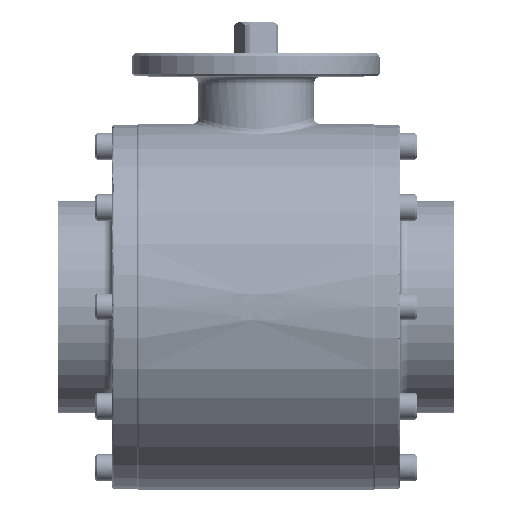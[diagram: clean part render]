
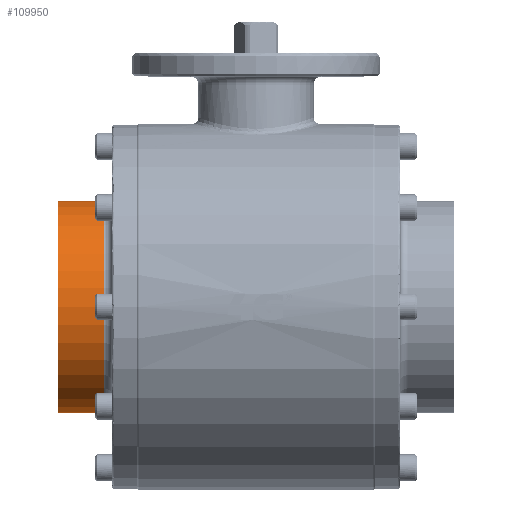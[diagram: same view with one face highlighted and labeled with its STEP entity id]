
A CAD part, top view. The second image highlights one B-rep face of the part: STEP entity #109950.
In plain terms, the highlighted cylindrical face has radius 64.5 mm (diameter 129 mm), a partial arc.
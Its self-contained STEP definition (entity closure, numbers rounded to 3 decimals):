
#40488=CARTESIAN_POINT('',(-92.5,0.,0.));
#40489=DIRECTION('',(-1.,0.,0.));
#40490=DIRECTION('',(0.,-1.,0.));
#40491=AXIS2_PLACEMENT_3D('',#40488,#40489,#40490);
#40496=CARTESIAN_POINT('',(-120.,0.,0.));
#40497=DIRECTION('',(-1.,0.,0.));
#40498=DIRECTION('',(0.,-1.,0.));
#40499=AXIS2_PLACEMENT_3D('',#40496,#40497,#40498);
#40512=DIRECTION('',(1.,0.,0.));
#40513=VECTOR('',#40512,27.5);
#40514=CARTESIAN_POINT('',(-120.,64.5,0.));
#40515=LINE('',#40514,#40513);
#40527=DIRECTION('',(1.,0.,0.));
#40528=VECTOR('',#40527,27.5);
#40529=CARTESIAN_POINT('',(-120.,-64.5,0.));
#40530=LINE('',#40529,#40528);
#78608=CARTESIAN_POINT('',(-120.,-64.5,0.));
#78609=CARTESIAN_POINT('',(-120.,64.5,0.));
#78610=VERTEX_POINT('',#78608);
#78611=VERTEX_POINT('',#78609);
#78644=CARTESIAN_POINT('',(-92.5,64.5,0.));
#78645=CARTESIAN_POINT('',(-92.5,-64.5,0.));
#78646=VERTEX_POINT('',#78644);
#78647=VERTEX_POINT('',#78645);
#109936=CARTESIAN_POINT('',(-59.625,0.,0.));
#109937=DIRECTION('',(-1.,0.,0.));
#109938=DIRECTION('',(0.,1.,0.));
#109939=AXIS2_PLACEMENT_3D('',#109936,#109937,#109938);
#109940=CYLINDRICAL_SURFACE('',#109939,64.5);
#109941=ORIENTED_EDGE('',*,*,#109930,.F.);
#109943=ORIENTED_EDGE('',*,*,#109942,.F.);
#109945=ORIENTED_EDGE('',*,*,#109944,.T.);
#109947=ORIENTED_EDGE('',*,*,#109946,.T.);
#109948=EDGE_LOOP('',(#109941,#109943,#109945,#109947));
#109949=FACE_OUTER_BOUND('',#109948,.F.);
#109950=ADVANCED_FACE('',(#109949),#109940,.T.);
#40492=CIRCLE('',#40491,64.5);
#40500=CIRCLE('',#40499,64.5);
#109930=EDGE_CURVE('',#78647,#78646,#40492,.T.);
#109942=EDGE_CURVE('',#78610,#78647,#40530,.T.);
#109944=EDGE_CURVE('',#78610,#78611,#40500,.T.);
#109946=EDGE_CURVE('',#78611,#78646,#40515,.T.);
